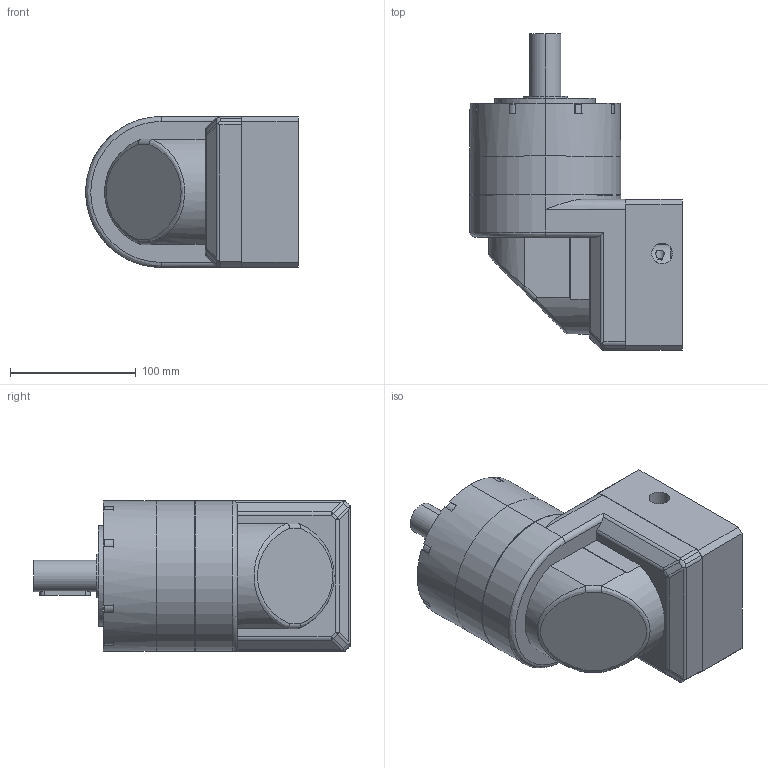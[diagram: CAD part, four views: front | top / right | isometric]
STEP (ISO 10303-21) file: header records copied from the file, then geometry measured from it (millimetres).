
FILE_DESCRIPTION (( 'STEP AP203' ), '1' );
FILE_NAME ('PVEA120-L1-22-110-145.STEP', '2026-09-21T07:51:05', ( 'Windows User' ), ( 'P R C' ), 'SwSTEP 2.0', 'SolidWorks 2016', '' );
FILE_SCHEMA (( 'CONFIG_CONTROL_DESIGN' ));
Length unit declared in the file: millimetre
Products named in the file (9): PVEA120-蟀諉啣; PVEA120-薊粣ん-梓袧; 螺釘範本 M8x20; 邧埴瑩 8x7x40; 粣創-3207A 35x72x27_2; PVEA120-L1-22-110-145; PVEA120-眊极_陔揤翉; PVEA120 κｳﾝﾈｦ-ﾓﾅｻｯ_ﾒｻｼｶﾄﾚｳﾝﾈｦ; PVEA120 奻屳唳
Assembly tree (8 placements, depth 2):
  PVEA120-L1-22-110-145
    PVEA120-眊极_陔揤翉
    PVEA120 κｳﾝﾈｦ-ﾓﾅｻｯ_ﾒｻｼｶﾄﾚｳﾝﾈｦ
    PVEA120 奻屳唳
    PVEA120-蟀諉啣
    PVEA120-薊粣ん-梓袧
    螺釘範本 M8x20
    邧埴瑩 8x7x40
    粣創-3207A 35x72x27_2
Bounding box: 169 x 252 x 120 mm (x, y, z)
Volume: 2306733.1 mm3; surface area: 301479.8 mm2
Topology: 8 solids, 16 shells, 1217 faces, 3332 edges, 2174 vertices
Faces by surface type: plane 656, bspline 271, cylinder 250, cone 40
Entity records: 48303 total; most frequent: CARTESIAN_POINT 18266, ORIENTED_EDGE 6556, DIRECTION 5239, EDGE_CURVE 3278, VERTEX_POINT 2166, VECTOR 1925, LINE 1925, AXIS2_PLACEMENT_3D 1657
